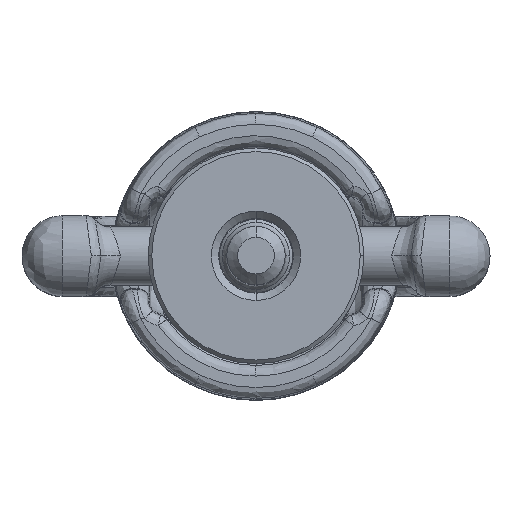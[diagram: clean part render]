
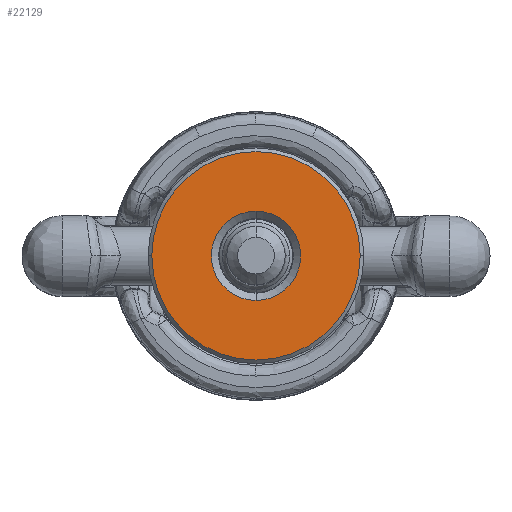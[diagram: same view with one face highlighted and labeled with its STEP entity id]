
A CAD part, top view. The second image highlights one B-rep face of the part: STEP entity #22129.
In plain terms, the highlighted planar face has unit normal (0, 0, 1) as drawn and (0, -1, 0) by its records, which use the part's own axes.
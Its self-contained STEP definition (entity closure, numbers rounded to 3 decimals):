
#11286 = CARTESIAN_POINT ( 'NONE',  ( 0., 0., 6.1 ) ) ;
#11287 = DIRECTION ( 'NONE',  ( 0., 0., -1. ) ) ;
#11288 = DIRECTION ( 'NONE',  ( 0., -1., 0. ) ) ;
#11289 = CARTESIAN_POINT ( 'NONE',  ( 0., 0., 0. ) ) ;
#11290 = AXIS2_PLACEMENT_3D ( 'NONE', #11289, #11288, #11287 ) ;
#11291 = CIRCLE ( 'NONE', #11290, 6.1 ) ;
#11296 = CARTESIAN_POINT ( 'NONE',  ( 0., 0., -6.1 ) ) ;
#11740 = VERTEX_POINT ( 'NONE', #11296 ) ;
#11863 = EDGE_CURVE ( 'NONE', #11902, #11740, #11291, .T. ) ;
#11902 = VERTEX_POINT ( 'NONE', #11286 ) ;
#13516 = VERTEX_POINT ( 'NONE', #27337 ) ;
#13540 = VERTEX_POINT ( 'NONE', #27394 ) ;
#13556 = EDGE_CURVE ( 'NONE', #13516, #13540, #27507, .T. ) ;
#17393 = CIRCLE ( 'NONE', #17418, 14.25 ) ;
#17403 = DIRECTION ( 'NONE',  ( 0., 0., 1. ) ) ;
#17404 = DIRECTION ( 'NONE',  ( 0., 1., 0. ) ) ;
#17405 = AXIS2_PLACEMENT_3D ( 'NONE', #17406, #17404, #17403 ) ;
#17406 = CARTESIAN_POINT ( 'NONE',  ( 0., 0., 0. ) ) ;
#17407 = PLANE ( 'NONE',  #17405 ) ;
#17408 = FACE_OUTER_BOUND ( 'NONE', #22136, .T. ) ;
#17409 = FACE_BOUND ( 'NONE', #22269, .T. ) ;
#17410 = DIRECTION ( 'NONE',  ( 0., 0., -1. ) ) ;
#17411 = DIRECTION ( 'NONE',  ( 0., -1., 0. ) ) ;
#17412 = CARTESIAN_POINT ( 'NONE',  ( 0., 0., 0. ) ) ;
#17413 = AXIS2_PLACEMENT_3D ( 'NONE', #17412, #17411, #17410 ) ;
#17414 = CIRCLE ( 'NONE', #17413, 6.1 ) ;
#17415 = DIRECTION ( 'NONE',  ( -1., 0., 0. ) ) ;
#17416 = DIRECTION ( 'NONE',  ( 0., 1., 0. ) ) ;
#17417 = CARTESIAN_POINT ( 'NONE',  ( 0., 0., 0. ) ) ;
#17418 = AXIS2_PLACEMENT_3D ( 'NONE', #17417, #17416, #17415 ) ;
#22120 = EDGE_CURVE ( 'NONE', #11740, #11902, #17414, .T. ) ;
#22124 = ORIENTED_EDGE ( 'NONE', *, *, #11863, .F. ) ;
#22129 = ADVANCED_FACE ( 'NONE', ( #17409, #17408 ), #17407, .F. ) ;
#22136 = EDGE_LOOP ( 'NONE', ( #22138, #22140 ) ) ;
#22138 = ORIENTED_EDGE ( 'NONE', *, *, #13556, .F. ) ;
#22140 = ORIENTED_EDGE ( 'NONE', *, *, #22159, .F. ) ;
#22155 = ORIENTED_EDGE ( 'NONE', *, *, #22120, .F. ) ;
#22159 = EDGE_CURVE ( 'NONE', #13540, #13516, #17393, .T. ) ;
#22269 = EDGE_LOOP ( 'NONE', ( #22155, #22124 ) ) ;
#27337 = CARTESIAN_POINT ( 'NONE',  ( -14.25, 0., 0. ) ) ;
#27394 = CARTESIAN_POINT ( 'NONE',  ( 14.25, 0., 0. ) ) ;
#27503 = DIRECTION ( 'NONE',  ( -1., 0., 0. ) ) ;
#27504 = DIRECTION ( 'NONE',  ( 0., 1., 0. ) ) ;
#27505 = CARTESIAN_POINT ( 'NONE',  ( 0., 0., 0. ) ) ;
#27506 = AXIS2_PLACEMENT_3D ( 'NONE', #27505, #27504, #27503 ) ;
#27507 = CIRCLE ( 'NONE', #27506, 14.25 ) ;
